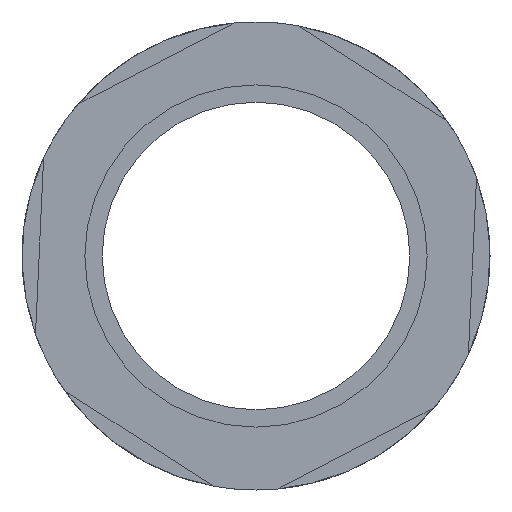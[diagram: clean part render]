
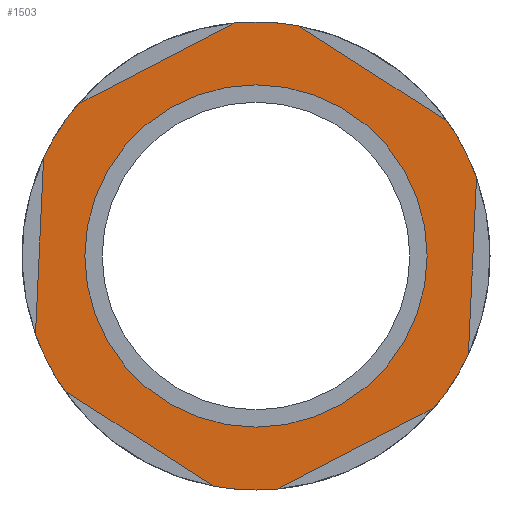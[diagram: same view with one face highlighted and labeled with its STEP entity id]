
A CAD part, front view. The second image highlights one B-rep face of the part: STEP entity #1503.
In plain terms, the highlighted planar face has unit normal (0, -1, 0).
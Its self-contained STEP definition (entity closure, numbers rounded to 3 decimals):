
#17 = CIRCLE ( 'NONE', #1524, 27. ) ;
#22 = DIRECTION ( 'NONE',  ( 0., 0., 1. ) ) ;
#23 = ORIENTED_EDGE ( 'NONE', *, *, #1095, .F. ) ;
#27 = AXIS2_PLACEMENT_3D ( 'NONE', #187, #502, #681 ) ;
#66 = LINE ( 'NONE', #931, #1168 ) ;
#71 = VERTEX_POINT ( 'NONE', #1185 ) ;
#76 = CIRCLE ( 'NONE', #1751, 27. ) ;
#81 = DIRECTION ( 'NONE',  ( 0., 1., 0. ) ) ;
#96 = AXIS2_PLACEMENT_3D ( 'NONE', #1004, #1831, #1139 ) ;
#109 = AXIS2_PLACEMENT_3D ( 'NONE', #169, #1516, #1014 ) ;
#111 = AXIS2_PLACEMENT_3D ( 'NONE', #200, #1397, #1366 ) ;
#112 = EDGE_CURVE ( 'NONE', #2171, #71, #17, .T. ) ;
#113 = ORIENTED_EDGE ( 'NONE', *, *, #679, .F. ) ;
#115 = ORIENTED_EDGE ( 'NONE', *, *, #1787, .F. ) ;
#116 = CARTESIAN_POINT ( 'NONE',  ( 24.308, 0., -15.571 ) ) ;
#132 = DIRECTION ( 'NONE',  ( 0., 0., 1. ) ) ;
#169 = CARTESIAN_POINT ( 'NONE',  ( 0., 0., 0. ) ) ;
#174 = CIRCLE ( 'NONE', #1412, 27. ) ;
#187 = CARTESIAN_POINT ( 'NONE',  ( 0., 0., 0. ) ) ;
#196 = EDGE_CURVE ( 'NONE', #214, #933, #66, .T. ) ;
#200 = CARTESIAN_POINT ( 'NONE',  ( 0., 0., 0. ) ) ;
#204 = ORIENTED_EDGE ( 'NONE', *, *, #1911, .F. ) ;
#214 = VERTEX_POINT ( 'NONE', #738 ) ;
#220 = AXIS2_PLACEMENT_3D ( 'NONE', #1341, #449, #1196 ) ;
#225 = VERTEX_POINT ( 'NONE', #1066 ) ;
#248 = LINE ( 'NONE', #1048, #1105 ) ;
#283 = CIRCLE ( 'NONE', #1715, 19.75 ) ;
#290 = EDGE_CURVE ( 'NONE', #1479, #1435, #1738, .T. ) ;
#343 = ORIENTED_EDGE ( 'NONE', *, *, #1484, .F. ) ;
#373 = LINE ( 'NONE', #1608, #1912 ) ;
#376 = VECTOR ( 'NONE', #1724, 1000. ) ;
#378 = DIRECTION ( 'NONE',  ( -0.046, 0., -0.999 ) ) ;
#410 = CARTESIAN_POINT ( 'NONE',  ( 2.432, 0., -26.89 ) ) ;
#423 = ORIENTED_EDGE ( 'NONE', *, *, #845, .F. ) ;
#449 = DIRECTION ( 'NONE',  ( 0., 1., 0. ) ) ;
#502 = DIRECTION ( 'NONE',  ( 0., 1., 0. ) ) ;
#504 = EDGE_CURVE ( 'NONE', #2236, #846, #1983, .T. ) ;
#548 = VERTEX_POINT ( 'NONE', #1245 ) ;
#624 = VERTEX_POINT ( 'NONE', #2125 ) ;
#627 = ORIENTED_EDGE ( 'NONE', *, *, #196, .F. ) ;
#660 = CIRCLE ( 'NONE', #220, 27. ) ;
#679 = EDGE_CURVE ( 'NONE', #1225, #2236, #1935, .T. ) ;
#681 = DIRECTION ( 'NONE',  ( 0., 0., 1. ) ) ;
#693 = CARTESIAN_POINT ( 'NONE',  ( -24.503, 0., 11.339 ) ) ;
#696 = CARTESIAN_POINT ( 'NONE',  ( -25.639, 0., -13.266 ) ) ;
#699 = DIRECTION ( 'NONE',  ( 0., 0., 1. ) ) ;
#713 = CARTESIAN_POINT ( 'NONE',  ( 0., 0., 0. ) ) ;
#726 = CIRCLE ( 'NONE', #96, 27. ) ;
#737 = EDGE_LOOP ( 'NONE', ( #2075, #1618 ) ) ;
#738 = CARTESIAN_POINT ( 'NONE',  ( 4.897, 0., 26.552 ) ) ;
#752 = LINE ( 'NONE', #863, #376 ) ;
#755 = EDGE_CURVE ( 'NONE', #1137, #214, #726, .T. ) ;
#760 = CARTESIAN_POINT ( 'NONE',  ( 0., 0., 0. ) ) ;
#772 = CARTESIAN_POINT ( 'NONE',  ( 0., 0., 0. ) ) ;
#786 = CARTESIAN_POINT ( 'NONE',  ( 0., 0., 0. ) ) ;
#845 = EDGE_CURVE ( 'NONE', #2042, #1137, #967, .T. ) ;
#846 = VERTEX_POINT ( 'NONE', #693 ) ;
#848 = CIRCLE ( 'NONE', #27, 27. ) ;
#863 = CARTESIAN_POINT ( 'NONE',  ( -24.308, 0., 15.571 ) ) ;
#874 = CARTESIAN_POINT ( 'NONE',  ( -2.432, 0., 26.89 ) ) ;
#923 = EDGE_CURVE ( 'NONE', #926, #2042, #752, .T. ) ;
#926 = VERTEX_POINT ( 'NONE', #2239 ) ;
#931 = CARTESIAN_POINT ( 'NONE',  ( 1.33, 0., 28.837 ) ) ;
#933 = VERTEX_POINT ( 'NONE', #1206 ) ;
#967 = CIRCLE ( 'NONE', #109, 27. ) ;
#992 = CARTESIAN_POINT ( 'NONE',  ( -25.443, 0., -9.035 ) ) ;
#1004 = CARTESIAN_POINT ( 'NONE',  ( 0., 0., 0. ) ) ;
#1014 = DIRECTION ( 'NONE',  ( 0., 0., 1. ) ) ;
#1048 = CARTESIAN_POINT ( 'NONE',  ( 25.639, 0., 13.266 ) ) ;
#1066 = CARTESIAN_POINT ( 'NONE',  ( 20.546, 0., -17.517 ) ) ;
#1070 = VECTOR ( 'NONE', #1156, 1000. ) ;
#1085 = EDGE_CURVE ( 'NONE', #548, #1225, #373, .T. ) ;
#1095 = EDGE_CURVE ( 'NONE', #933, #2071, #76, .T. ) ;
#1097 = CARTESIAN_POINT ( 'NONE',  ( 0., 0., 19.75 ) ) ;
#1105 = VECTOR ( 'NONE', #378, 1000. ) ;
#1120 = DIRECTION ( 'NONE',  ( 0., 1., 0. ) ) ;
#1137 = VERTEX_POINT ( 'NONE', #1258 ) ;
#1139 = DIRECTION ( 'NONE',  ( 0., 0., 1. ) ) ;
#1152 = DIRECTION ( 'NONE',  ( 0., 1., 0. ) ) ;
#1156 = DIRECTION ( 'NONE',  ( -0.888, 0., -0.46 ) ) ;
#1168 = VECTOR ( 'NONE', #1605, 1000. ) ;
#1185 = CARTESIAN_POINT ( 'NONE',  ( 0., 0., -27. ) ) ;
#1189 = AXIS2_PLACEMENT_3D ( 'NONE', #786, #1462, #1991 ) ;
#1196 = DIRECTION ( 'NONE',  ( 0., 0., 1. ) ) ;
#1206 = CARTESIAN_POINT ( 'NONE',  ( 22.072, 0., 15.551 ) ) ;
#1225 = VERTEX_POINT ( 'NONE', #2008 ) ;
#1245 = CARTESIAN_POINT ( 'NONE',  ( -4.897, 0., -26.552 ) ) ;
#1258 = CARTESIAN_POINT ( 'NONE',  ( 0., 0., 27. ) ) ;
#1288 = DIRECTION ( 'NONE',  ( 0., 0., 1. ) ) ;
#1295 = ORIENTED_EDGE ( 'NONE', *, *, #755, .F. ) ;
#1341 = CARTESIAN_POINT ( 'NONE',  ( 0., 0., 0. ) ) ;
#1359 = ORIENTED_EDGE ( 'NONE', *, *, #1085, .F. ) ;
#1366 = DIRECTION ( 'NONE',  ( 0., 0., 1. ) ) ;
#1383 = DIRECTION ( 'NONE',  ( 0., 1., 0. ) ) ;
#1397 = DIRECTION ( 'NONE',  ( 0., 1., 0. ) ) ;
#1412 = AXIS2_PLACEMENT_3D ( 'NONE', #1741, #1383, #699 ) ;
#1435 = VERTEX_POINT ( 'NONE', #1097 ) ;
#1462 = DIRECTION ( 'NONE',  ( 0., 1., 0. ) ) ;
#1479 = VERTEX_POINT ( 'NONE', #2090 ) ;
#1484 = EDGE_CURVE ( 'NONE', #2071, #624, #248, .T. ) ;
#1493 = EDGE_CURVE ( 'NONE', #71, #548, #174, .T. ) ;
#1503 = ADVANCED_FACE ( 'NONE', ( #1856, #1774 ), #1748, .F. ) ;
#1516 = DIRECTION ( 'NONE',  ( 0., 1., 0. ) ) ;
#1524 = AXIS2_PLACEMENT_3D ( 'NONE', #2226, #1152, #132 ) ;
#1554 = DIRECTION ( 'NONE',  ( 0., 1., 0. ) ) ;
#1585 = ORIENTED_EDGE ( 'NONE', *, *, #504, .F. ) ;
#1599 = DIRECTION ( 'NONE',  ( 0., 0., 1. ) ) ;
#1605 = DIRECTION ( 'NONE',  ( 0.842, 0., -0.539 ) ) ;
#1608 = CARTESIAN_POINT ( 'NONE',  ( -1.33, 0., -28.837 ) ) ;
#1618 = ORIENTED_EDGE ( 'NONE', *, *, #1985, .T. ) ;
#1715 = AXIS2_PLACEMENT_3D ( 'NONE', #713, #1554, #22 ) ;
#1724 = DIRECTION ( 'NONE',  ( 0.888, 0., 0.46 ) ) ;
#1729 = ORIENTED_EDGE ( 'NONE', *, *, #1965, .F. ) ;
#1738 = CIRCLE ( 'NONE', #1189, 19.75 ) ;
#1741 = CARTESIAN_POINT ( 'NONE',  ( 0., 0., 0. ) ) ;
#1748 = PLANE ( 'NONE',  #111 ) ;
#1751 = AXIS2_PLACEMENT_3D ( 'NONE', #760, #81, #1599 ) ;
#1753 = ORIENTED_EDGE ( 'NONE', *, *, #112, .F. ) ;
#1774 = FACE_BOUND ( 'NONE', #737, .T. ) ;
#1787 = EDGE_CURVE ( 'NONE', #225, #2171, #2086, .T. ) ;
#1831 = DIRECTION ( 'NONE',  ( 0., 1., 0. ) ) ;
#1846 = EDGE_LOOP ( 'NONE', ( #204, #343, #23, #627, #1295, #423, #1862, #1729, #1585, #113, #1359, #2149, #1753, #115 ) ) ;
#1856 = FACE_OUTER_BOUND ( 'NONE', #1846, .T. ) ;
#1862 = ORIENTED_EDGE ( 'NONE', *, *, #923, .F. ) ;
#1911 = EDGE_CURVE ( 'NONE', #624, #225, #848, .T. ) ;
#1912 = VECTOR ( 'NONE', #1952, 1000. ) ;
#1921 = CARTESIAN_POINT ( 'NONE',  ( 25.443, 0., 9.035 ) ) ;
#1930 = DIRECTION ( 'NONE',  ( 0.046, 0., 0.999 ) ) ;
#1935 = CIRCLE ( 'NONE', #2005, 27. ) ;
#1952 = DIRECTION ( 'NONE',  ( -0.842, 0., 0.539 ) ) ;
#1965 = EDGE_CURVE ( 'NONE', #846, #926, #660, .T. ) ;
#1983 = LINE ( 'NONE', #696, #2156 ) ;
#1985 = EDGE_CURVE ( 'NONE', #1435, #1479, #283, .T. ) ;
#1991 = DIRECTION ( 'NONE',  ( 0., 0., 1. ) ) ;
#2005 = AXIS2_PLACEMENT_3D ( 'NONE', #772, #1120, #1288 ) ;
#2008 = CARTESIAN_POINT ( 'NONE',  ( -22.072, 0., -15.551 ) ) ;
#2042 = VERTEX_POINT ( 'NONE', #874 ) ;
#2071 = VERTEX_POINT ( 'NONE', #1921 ) ;
#2075 = ORIENTED_EDGE ( 'NONE', *, *, #290, .T. ) ;
#2086 = LINE ( 'NONE', #116, #1070 ) ;
#2090 = CARTESIAN_POINT ( 'NONE',  ( 0., 0., -19.75 ) ) ;
#2125 = CARTESIAN_POINT ( 'NONE',  ( 24.503, 0., -11.339 ) ) ;
#2149 = ORIENTED_EDGE ( 'NONE', *, *, #1493, .F. ) ;
#2156 = VECTOR ( 'NONE', #1930, 1000. ) ;
#2171 = VERTEX_POINT ( 'NONE', #410 ) ;
#2226 = CARTESIAN_POINT ( 'NONE',  ( 0., 0., 0. ) ) ;
#2236 = VERTEX_POINT ( 'NONE', #992 ) ;
#2239 = CARTESIAN_POINT ( 'NONE',  ( -20.546, 0., 17.517 ) ) ;
